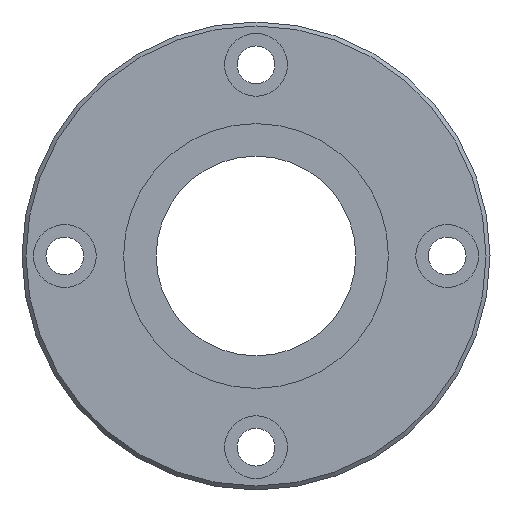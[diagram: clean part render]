
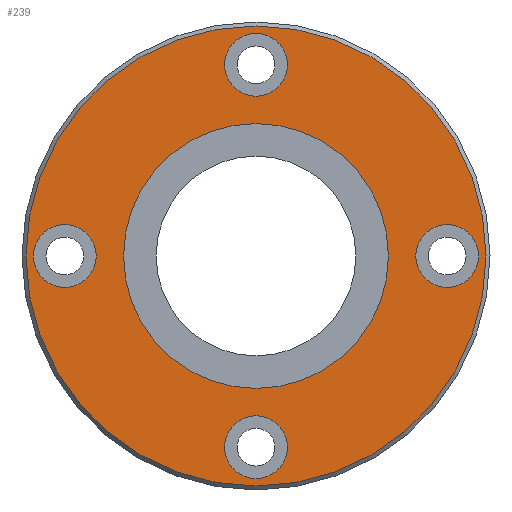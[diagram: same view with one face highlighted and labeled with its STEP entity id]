
A CAD part, left-side view. The second image highlights one B-rep face of the part: STEP entity #239.
In plain terms, the highlighted planar face has unit normal (-1, 0, 0).
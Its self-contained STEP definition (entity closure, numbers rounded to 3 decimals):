
#164=CARTESIAN_POINT('',(0.,0.,40.3));
#165=VERTEX_POINT('',#164);
#166=CARTESIAN_POINT('',(0.,0.0,0.0));
#167=DIRECTION('',(1.0,0.0,0.0));
#168=DIRECTION('',(0.0,0.0,-1.0));
#169=AXIS2_PLACEMENT_3D('',#166,#167,#168);
#170=CIRCLE('',#169,40.3);
#171=EDGE_CURVE('',#165,#165,#170,.T.);
#176=CARTESIAN_POINT('',(0.,0.0,24.6));
#177=DIRECTION('',(-1.0,0.0,0.0));
#178=DIRECTION('',(0.0,0.0,1.0));
#179=AXIS2_PLACEMENT_3D('',#176,#177,#178);
#180=PLANE('',#179);
#181=ORIENTED_EDGE('',*,*,#171,.F.);
#182=EDGE_LOOP('',(#181));
#183=FACE_OUTER_BOUND('',#182,.T.);
#184=CARTESIAN_POINT('',(0.,0.0,23.2));
#185=VERTEX_POINT('',#184);
#186=CARTESIAN_POINT('',(0.,0.0,0.0));
#187=DIRECTION('',(-1.0,0.0,0.0));
#188=DIRECTION('',(0.0,0.0,1.0));
#189=AXIS2_PLACEMENT_3D('',#186,#187,#188);
#190=CIRCLE('',#189,23.2);
#191=EDGE_CURVE('',#185,#185,#190,.T.);
#192=ORIENTED_EDGE('',*,*,#191,.F.);
#193=EDGE_LOOP('',(#192));
#194=FACE_BOUND('',#193,.T.);
#195=CARTESIAN_POINT('',(0.0,39.0,0.));
#196=VERTEX_POINT('',#195);
#197=CARTESIAN_POINT('',(0.,33.5,0.));
#198=DIRECTION('',(1.0,0.0,0.0));
#199=DIRECTION('',(0.0,1.0,0.0));
#200=AXIS2_PLACEMENT_3D('',#197,#198,#199);
#201=CIRCLE('',#200,5.5);
#202=EDGE_CURVE('',#196,#196,#201,.T.);
#203=ORIENTED_EDGE('',*,*,#202,.T.);
#204=EDGE_LOOP('',(#203));
#205=FACE_BOUND('',#204,.T.);
#206=CARTESIAN_POINT('',(0.0,-28.,0.));
#207=VERTEX_POINT('',#206);
#208=CARTESIAN_POINT('',(0.,-33.5,0.));
#209=DIRECTION('',(1.0,0.0,0.0));
#210=DIRECTION('',(0.0,1.0,0.0));
#211=AXIS2_PLACEMENT_3D('',#208,#209,#210);
#212=CIRCLE('',#211,5.5);
#213=EDGE_CURVE('',#207,#207,#212,.T.);
#214=ORIENTED_EDGE('',*,*,#213,.T.);
#215=EDGE_LOOP('',(#214));
#216=FACE_BOUND('',#215,.T.);
#217=CARTESIAN_POINT('',(0.0,5.5,33.5));
#218=VERTEX_POINT('',#217);
#219=CARTESIAN_POINT('',(0.,0.,33.5));
#220=DIRECTION('',(1.0,0.0,0.0));
#221=DIRECTION('',(0.0,1.0,0.0));
#222=AXIS2_PLACEMENT_3D('',#219,#220,#221);
#223=CIRCLE('',#222,5.5);
#224=EDGE_CURVE('',#218,#218,#223,.T.);
#225=ORIENTED_EDGE('',*,*,#224,.T.);
#226=EDGE_LOOP('',(#225));
#227=FACE_BOUND('',#226,.T.);
#228=CARTESIAN_POINT('',(0.0,5.5,-33.5));
#229=VERTEX_POINT('',#228);
#230=CARTESIAN_POINT('',(0.,0.,-33.5));
#231=DIRECTION('',(1.0,0.0,0.0));
#232=DIRECTION('',(0.0,1.0,0.0));
#233=AXIS2_PLACEMENT_3D('',#230,#231,#232);
#234=CIRCLE('',#233,5.5);
#235=EDGE_CURVE('',#229,#229,#234,.T.);
#236=ORIENTED_EDGE('',*,*,#235,.T.);
#237=EDGE_LOOP('',(#236));
#238=FACE_BOUND('',#237,.T.);
#239=ADVANCED_FACE('',(#183,#194,#205,#216,#227,#238),#180,.T.);
